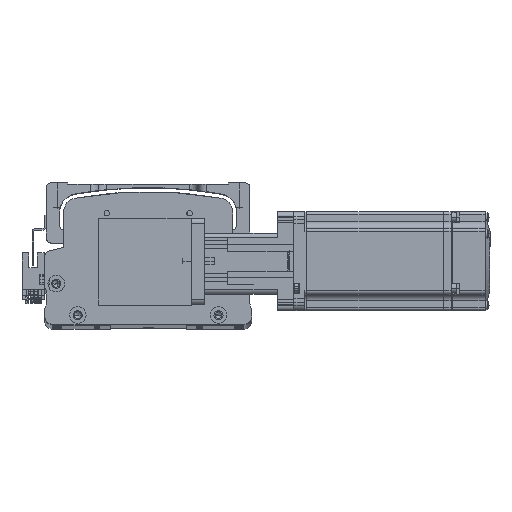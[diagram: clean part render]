
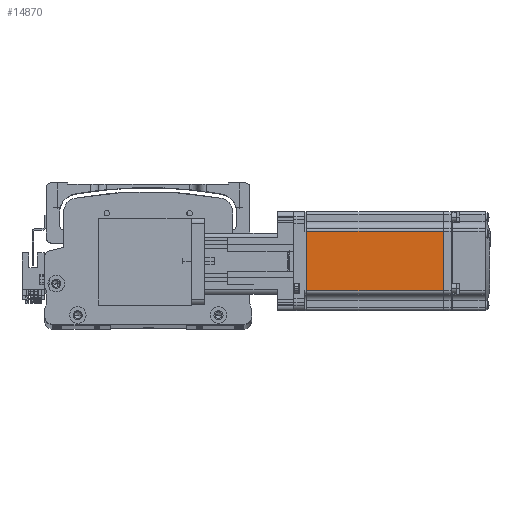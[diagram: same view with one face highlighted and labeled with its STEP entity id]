
A CAD part, top view. The second image highlights one B-rep face of the part: STEP entity #14870.
In plain terms, the highlighted planar face has unit normal (0, 0, 1) as drawn and (0, -1, 0) by its records, which use the part's own axes.
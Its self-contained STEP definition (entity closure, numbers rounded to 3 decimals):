
#943 = ORIENTED_EDGE ( 'NONE', *, *, #39691, .F. ) ;
#947 = CARTESIAN_POINT ( 'NONE',  ( -90.45, -30., 0. ) ) ;
#3670 = DIRECTION ( 'NONE',  ( 0., 0., -1. ) ) ;
#4995 = CARTESIAN_POINT ( 'NONE',  ( -6.5, -30., 18. ) ) ;
#9958 = EDGE_CURVE ( 'NONE', #19555, #30229, #11288, .T. ) ;
#10933 = DIRECTION ( 'NONE',  ( 0., 0., -1. ) ) ;
#11288 = LINE ( 'NONE', #947, #61150 ) ;
#11570 = VECTOR ( 'NONE', #44640, 1000. ) ;
#11986 = VECTOR ( 'NONE', #63565, 1000. ) ;
#12410 = CARTESIAN_POINT ( 'NONE',  ( -90.45, -30., 18. ) ) ;
#14870 = ADVANCED_FACE ( 'NONE', ( #42832 ), #33133, .T. ) ;
#18003 = AXIS2_PLACEMENT_3D ( 'NONE', #63349, #33537, #3670 ) ;
#18800 = ORIENTED_EDGE ( 'NONE', *, *, #19885, .T. ) ;
#19555 = VERTEX_POINT ( 'NONE', #12410 ) ;
#19885 = EDGE_CURVE ( 'NONE', #44410, #19555, #49743, .T. ) ;
#20224 = CARTESIAN_POINT ( 'NONE',  ( -90.45, -30., -18. ) ) ;
#23655 = LINE ( 'NONE', #33799, #11986 ) ;
#24352 = VERTEX_POINT ( 'NONE', #41482 ) ;
#24991 = ORIENTED_EDGE ( 'NONE', *, *, #9958, .T. ) ;
#25311 = DIRECTION ( 'NONE',  ( 0., 0., -1. ) ) ;
#25596 = LINE ( 'NONE', #55111, #50498 ) ;
#27363 = EDGE_LOOP ( 'NONE', ( #943, #18800, #24991, #39783 ) ) ;
#30229 = VERTEX_POINT ( 'NONE', #20224 ) ;
#33133 = PLANE ( 'NONE',  #18003 ) ;
#33537 = DIRECTION ( 'NONE',  ( 0., -1., 0. ) ) ;
#33799 = CARTESIAN_POINT ( 'NONE',  ( -6.5, -30., -18. ) ) ;
#39691 = EDGE_CURVE ( 'NONE', #44410, #24352, #25596, .T. ) ;
#39783 = ORIENTED_EDGE ( 'NONE', *, *, #62730, .F. ) ;
#41482 = CARTESIAN_POINT ( 'NONE',  ( -7.75, -30., -18. ) ) ;
#42726 = CARTESIAN_POINT ( 'NONE',  ( -7.75, -30., 18. ) ) ;
#42832 = FACE_OUTER_BOUND ( 'NONE', #27363, .T. ) ;
#44410 = VERTEX_POINT ( 'NONE', #42726 ) ;
#44640 = DIRECTION ( 'NONE',  ( -1., 0., 0. ) ) ;
#49743 = LINE ( 'NONE', #4995, #11570 ) ;
#50498 = VECTOR ( 'NONE', #25311, 1000. ) ;
#55111 = CARTESIAN_POINT ( 'NONE',  ( -7.75, -30., 0. ) ) ;
#61150 = VECTOR ( 'NONE', #10933, 1000. ) ;
#62730 = EDGE_CURVE ( 'NONE', #24352, #30229, #23655, .T. ) ;
#63349 = CARTESIAN_POINT ( 'NONE',  ( -6.5, -30., -25. ) ) ;
#63565 = DIRECTION ( 'NONE',  ( -1., 0., 0. ) ) ;
